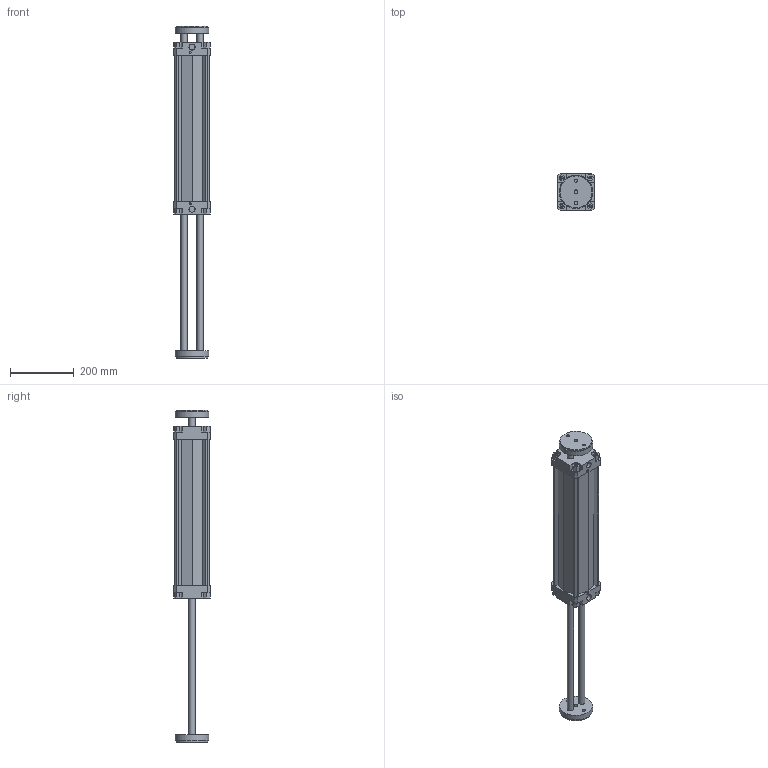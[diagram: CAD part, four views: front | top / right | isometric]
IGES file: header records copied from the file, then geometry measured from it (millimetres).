
Global section: file name: 132#_100_0400_06; native system: Autodesk Inventor 2014; preprocessor: unknown; author: A. Manieri; date: 20161006.163806; units: millimetre
Bounding box: 115 x 115 x 1040 mm (x, y, z)
Volume: 3464504 mm3; surface area: 657416.3 mm2
Topology: 2 solids, 2 shells, 190 faces, 518 edges, 354 vertices
Faces by surface type: bspline 190
